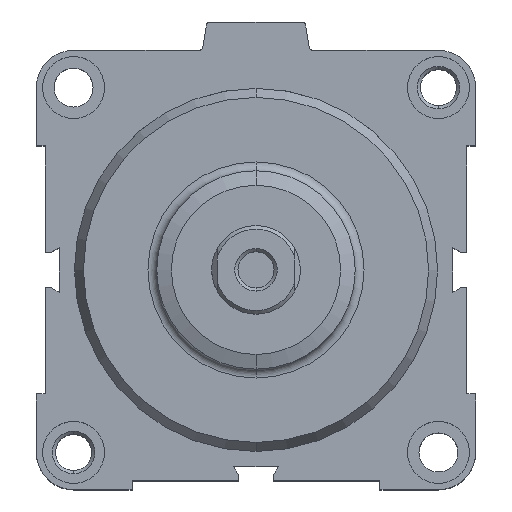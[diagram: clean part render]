
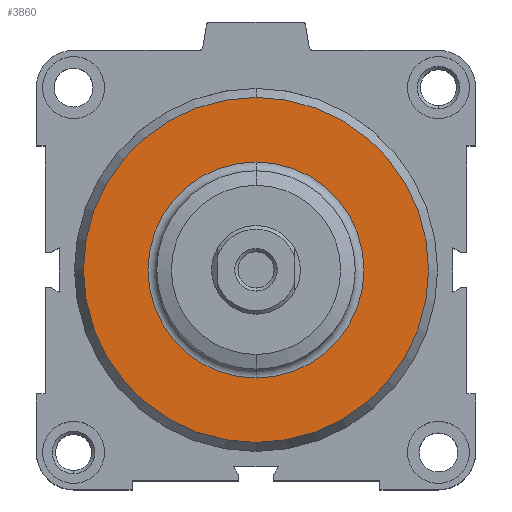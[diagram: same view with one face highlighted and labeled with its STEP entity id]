
A CAD part, top view. The second image highlights one B-rep face of the part: STEP entity #3860.
In plain terms, the highlighted planar face has unit normal (0, 0, 1).
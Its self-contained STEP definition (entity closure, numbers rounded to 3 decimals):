
#1337=CARTESIAN_POINT('',(0.,0.,-0.2));
#1338=DIRECTION('',(0.,0.,1.));
#1339=DIRECTION('',(0.,1.,0.));
#1340=AXIS2_PLACEMENT_3D('',#1337,#1338,#1339);
#1346=CARTESIAN_POINT('',(0.,0.,-0.2));
#1347=DIRECTION('',(0.,0.,-1.));
#1348=DIRECTION('',(0.,1.,0.));
#1349=AXIS2_PLACEMENT_3D('',#1346,#1347,#1348);
#1351=CARTESIAN_POINT('',(0.,0.,-0.2));
#1352=DIRECTION('',(0.,0.,1.));
#1353=DIRECTION('',(0.,1.,0.));
#1354=AXIS2_PLACEMENT_3D('',#1351,#1352,#1353);
#1356=CARTESIAN_POINT('',(0.,0.,-0.2));
#1357=DIRECTION('',(0.,0.,1.));
#1358=DIRECTION('',(0.,-1.,0.));
#1359=AXIS2_PLACEMENT_3D('',#1356,#1357,#1358);
#1877=CARTESIAN_POINT('',(0.,48.71,-0.2));
#1879=VERTEX_POINT('',#1877);
#1881=CARTESIAN_POINT('',(0.,-48.71,-0.2));
#1883=VERTEX_POINT('',#1881);
#1889=CARTESIAN_POINT('',(0.,30.5,-0.2));
#1890=CARTESIAN_POINT('',(0.,-30.5,-0.2));
#1891=VERTEX_POINT('',#1889);
#1892=VERTEX_POINT('',#1890);
#3845=CARTESIAN_POINT('',(0.,0.,-0.2));
#3846=DIRECTION('',(0.,0.,-1.));
#3847=DIRECTION('',(0.,-1.,0.));
#3848=AXIS2_PLACEMENT_3D('',#3845,#3846,#3847);
#3849=PLANE('',#3848);
#3850=ORIENTED_EDGE('',*,*,#3824,.F.);
#3851=ORIENTED_EDGE('',*,*,#3840,.T.);
#3852=EDGE_LOOP('',(#3850,#3851));
#3853=FACE_OUTER_BOUND('',#3852,.F.);
#3855=ORIENTED_EDGE('',*,*,#3854,.T.);
#3857=ORIENTED_EDGE('',*,*,#3856,.T.);
#3858=EDGE_LOOP('',(#3855,#3857));
#3859=FACE_BOUND('',#3858,.F.);
#3860=ADVANCED_FACE('',(#3853,#3859),#3849,.F.);
#1341=CIRCLE('',#1340,48.71);
#1350=CIRCLE('',#1349,48.71);
#1355=CIRCLE('',#1354,30.5);
#1360=CIRCLE('',#1359,30.5);
#3824=EDGE_CURVE('',#1879,#1883,#1341,.T.);
#3840=EDGE_CURVE('',#1879,#1883,#1350,.T.);
#3854=EDGE_CURVE('',#1891,#1892,#1355,.T.);
#3856=EDGE_CURVE('',#1892,#1891,#1360,.T.);
